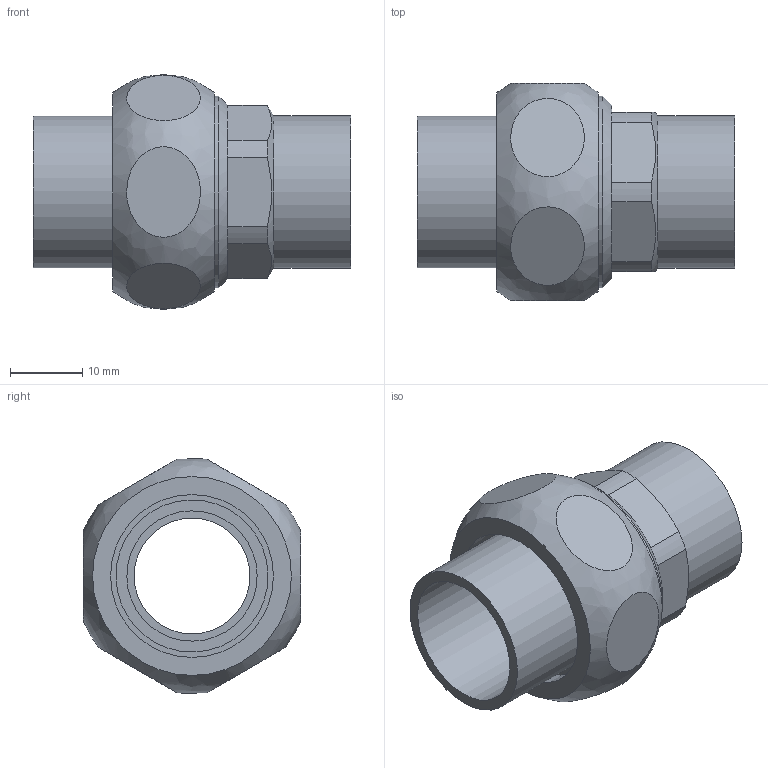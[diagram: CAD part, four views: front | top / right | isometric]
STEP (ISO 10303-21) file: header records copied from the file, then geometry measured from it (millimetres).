
FILE_DESCRIPTION((''),'2;1');
FILE_NAME('\\Lg50001\groups\SANHA Legnica\Engineering\Public\RYSUNKI\SANHA POLSKA\4340\step\14340_18(1).stp','2010-06-17T11:56:47',('pajchrowski'),(''),'Autodesk Inventor 2009','Autodesk Inventor 2009','');
FILE_SCHEMA(('AUTOMOTIVE_DESIGN { 1 0 10303 214 1 1 1 1 }'));
Length unit declared in the file: millimetre
Products named in the file (4): 14340_18(1); 14381_18-34(1); 14374_34(2); 14380_18-34(0)
Assembly tree (3 placements, depth 2):
  14340_18(1)
    14381_18-34(1)
    14374_34(2)
    14380_18-34(0)
Bounding box: 43.86 x 30 x 32.45 mm (x, y, z)
Volume: 10790.8 mm3; surface area: 9470.3 mm2
Topology: 3 solids, 3 shells, 51 faces, 93 edges, 58 vertices
Faces by surface type: plane 28, cylinder 17, cone 4, torus 1, bspline 1
Full cylindrical faces by diameter (mm): 16 x1, 17 x1, 18 x2, 21 x3, 22.5 x1, 23.5 x1, 24.117 x1, 26.44 x1
Entity records: 2241 total; most frequent: CARTESIAN_POINT 1180, DIRECTION 220, ORIENTED_EDGE 148, AXIS2_PLACEMENT_3D 101, EDGE_LOOP 84, EDGE_CURVE 74, VERTEX_POINT 56, FACE_OUTER_BOUND 51
